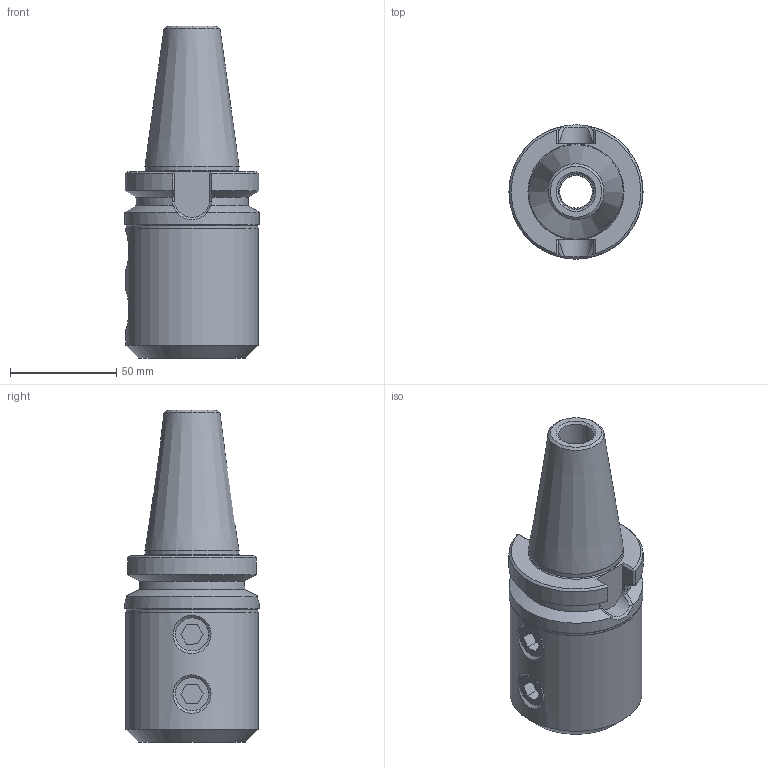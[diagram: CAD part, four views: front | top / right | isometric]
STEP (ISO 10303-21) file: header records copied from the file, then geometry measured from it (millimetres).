
FILE_DESCRIPTION(/* description */ (''),/* implementation_level */ '2;1');
FILE_NAME(/* name */ 'Z:\Проектный отдел\Алена\Оправка фрезерная (патрон) BT40-SLN32-90L\BT40-SLN32-90L.stp',/* time_stamp */ '2024-02-20T11:31:24+03:00',/* author */ ('User'),/* organization */ (''),/* preprocessor_version */ 'ST-DEVELOPER v18',/* originating_system */ 'Autodesk Inventor 2020',/* authorisation */ '');
FILE_SCHEMA (('AUTOMOTIVE_DESIGN { 1 0 10303 214 3 1 1 }'));
Length unit declared in the file: millimetre
Products named in the file (3): BT40-SLN32-90L; Деталь1; Сухарик
Assembly tree (3 placements, depth 2):
  BT40-SLN32-90L
    Деталь1
    Сухарик  x2
Bounding box: 63 x 63 x 155.9 mm (x, y, z)
Volume: 238060.3 mm3; surface area: 44546.9 mm2
Topology: 3 solids, 3 shells, 95 faces, 272 edges, 187 vertices
Faces by surface type: plane 48, cylinder 18, bspline 16, cone 12, torus 1
Full cylindrical faces by diameter (mm): 14 x2, 15.3 x1, 15.5 x1, 15.6 x2, 16.5 x1, 32 x1, 44.1 x1, 61.8 x1, 62 x1, 63 x1
Entity records: 3957 total; most frequent: CARTESIAN_POINT 1730, ORIENTED_EDGE 498, DIRECTION 365, EDGE_CURVE 249, VERTEX_POINT 171, AXIS2_PLACEMENT_3D 139, EDGE_LOOP 94, B_SPLINE_CURVE_WITH_KNOTS 90
